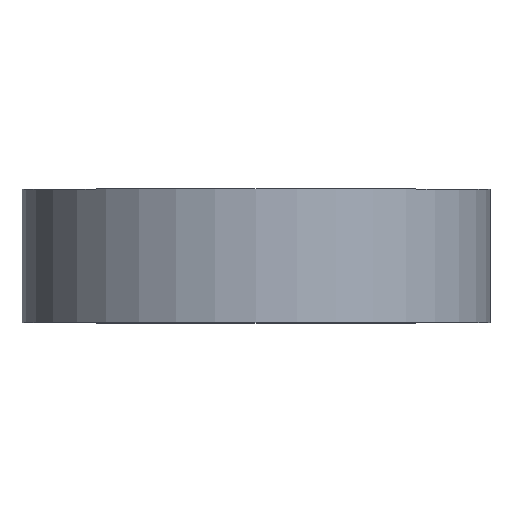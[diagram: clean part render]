
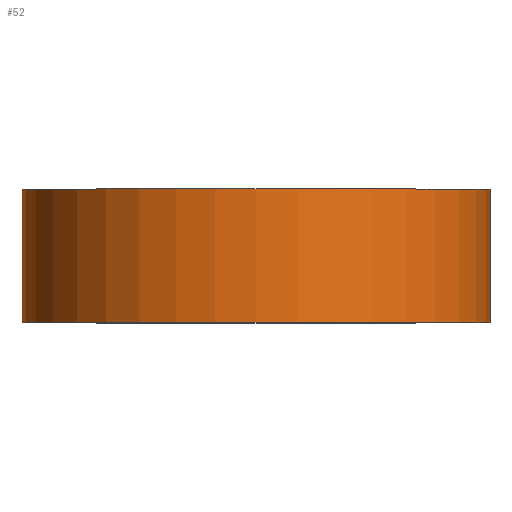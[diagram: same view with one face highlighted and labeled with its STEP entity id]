
A CAD part, top view. The second image highlights one B-rep face of the part: STEP entity #52.
In plain terms, the highlighted cylindrical face has radius 42.798 mm (diameter 85.596 mm), a full revolution.
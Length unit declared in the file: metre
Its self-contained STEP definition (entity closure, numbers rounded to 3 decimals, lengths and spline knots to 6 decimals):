
#14=ORIENTED_EDGE('',*,*,#22,.F.);
#15=ORIENTED_EDGE('',*,*,#23,.T.);
#22=EDGE_CURVE('',#26,#26,#30,.T.);
#23=EDGE_CURVE('',#27,#27,#31,.T.);
#26=VERTEX_POINT('',#98);
#27=VERTEX_POINT('',#100);
#30=CIRCLE('',#70,0.042798);
#31=CIRCLE('',#71,0.042798);
#34=EDGE_LOOP('',(#14));
#35=EDGE_LOOP('',(#15));
#42=FACE_BOUND('',#34,.T.);
#43=FACE_BOUND('',#35,.T.);
#50=CYLINDRICAL_SURFACE('',#69,0.042798);
#52=ADVANCED_FACE('',(#42,#43),#50,.T.);
#69=AXIS2_PLACEMENT_3D('',#96,#79,#80);
#70=AXIS2_PLACEMENT_3D('',#97,#81,#82);
#71=AXIS2_PLACEMENT_3D('',#99,#83,#84);
#79=DIRECTION('',(0.,-1.,0.));
#80=DIRECTION('',(0.,0.,-1.));
#81=DIRECTION('',(0.,-1.,0.));
#82=DIRECTION('',(0.,0.,-1.));
#83=DIRECTION('',(0.,-1.,0.));
#84=DIRECTION('',(0.,0.,-1.));
#96=CARTESIAN_POINT('',(0.,0.,0.));
#97=CARTESIAN_POINT('',(0.,-0.0122,0.));
#98=CARTESIAN_POINT('',(0.,-0.0122,-0.042798));
#99=CARTESIAN_POINT('',(0.,0.0122,0.));
#100=CARTESIAN_POINT('',(0.,0.0122,-0.042798));
